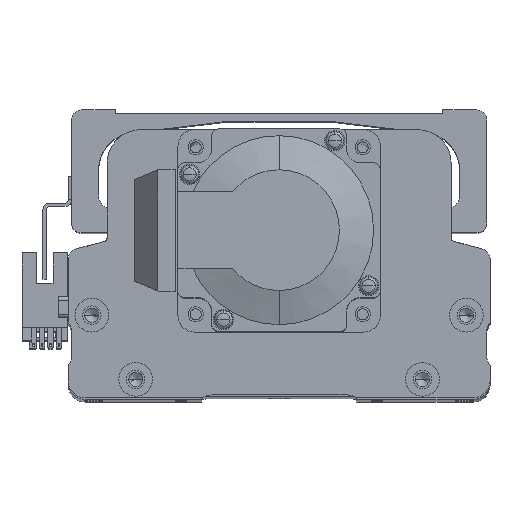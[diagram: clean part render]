
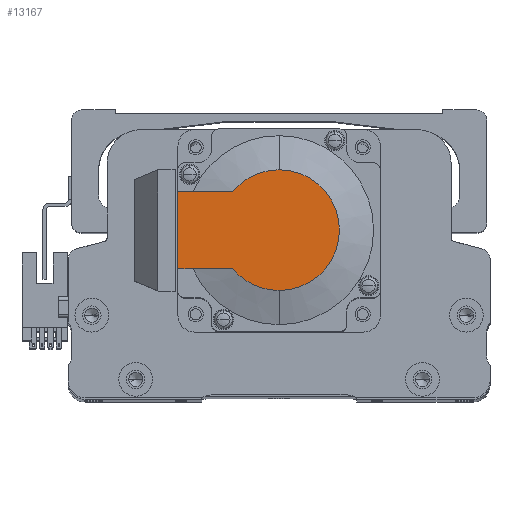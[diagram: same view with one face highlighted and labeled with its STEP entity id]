
A CAD part, top view. The second image highlights one B-rep face of the part: STEP entity #13167.
In plain terms, the highlighted planar face has unit normal (0, 0, 1) as drawn and (-1, 0, 0) by its records, which use the part's own axes.
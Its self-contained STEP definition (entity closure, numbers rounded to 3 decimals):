
#2856 = DIRECTION ( 'NONE',  ( 0., -1., 0. ) ) ;
#4699 = CARTESIAN_POINT ( 'NONE',  ( -118.5, 0., 0. ) ) ;
#5364 = EDGE_CURVE ( 'NONE', #16653, #48923, #42001, .T. ) ;
#5705 = VECTOR ( 'NONE', #2856, 1000. ) ;
#6154 = DIRECTION ( 'NONE',  ( -1., 0., 0. ) ) ;
#6888 = DIRECTION ( 'NONE',  ( 0., -1., 0. ) ) ;
#8611 = VERTEX_POINT ( 'NONE', #29557 ) ;
#8632 = DIRECTION ( 'NONE',  ( 0., 0., -1. ) ) ;
#9950 = PLANE ( 'NONE',  #48963 ) ;
#10588 = ORIENTED_EDGE ( 'NONE', *, *, #16560, .T. ) ;
#11199 = ORIENTED_EDGE ( 'NONE', *, *, #41778, .T. ) ;
#11314 = EDGE_LOOP ( 'NONE', ( #11199, #26597, #10588, #48470, #45414, #13993 ) ) ;
#12731 = DIRECTION ( 'NONE',  ( 0., 0., 1. ) ) ;
#12925 = DIRECTION ( 'NONE',  ( -1., 0., 0. ) ) ;
#12929 = CARTESIAN_POINT ( 'NONE',  ( -118.5, 30., -11.45 ) ) ;
#13167 = ADVANCED_FACE ( 'NONE', ( #34703 ), #9950, .T. ) ;
#13902 = AXIS2_PLACEMENT_3D ( 'NONE', #4699, #32261, #8632 ) ;
#13993 = ORIENTED_EDGE ( 'NONE', *, *, #5364, .F. ) ;
#14105 = CARTESIAN_POINT ( 'NONE',  ( -118.5, 0., 17.881 ) ) ;
#15989 = CIRCLE ( 'NONE', #13902, 17.881 ) ;
#16560 = EDGE_CURVE ( 'NONE', #48004, #42072, #15989, .T. ) ;
#16653 = VERTEX_POINT ( 'NONE', #12929 ) ;
#16716 = VERTEX_POINT ( 'NONE', #27283 ) ;
#17963 = DIRECTION ( 'NONE',  ( -1., 0., 0. ) ) ;
#18233 = CARTESIAN_POINT ( 'NONE',  ( -118.5, 30., 25. ) ) ;
#21083 = VECTOR ( 'NONE', #12731, 1000. ) ;
#21257 = VECTOR ( 'NONE', #6888, 1000. ) ;
#25216 = AXIS2_PLACEMENT_3D ( 'NONE', #36538, #12925, #40474 ) ;
#26461 = CARTESIAN_POINT ( 'NONE',  ( -118.5, 0., 11.45 ) ) ;
#26597 = ORIENTED_EDGE ( 'NONE', *, *, #46123, .T. ) ;
#27283 = CARTESIAN_POINT ( 'NONE',  ( -118.5, 13.735, -11.45 ) ) ;
#27310 = CARTESIAN_POINT ( 'NONE',  ( -118.5, 30., 11.45 ) ) ;
#28541 = CIRCLE ( 'NONE', #25216, 17.881 ) ;
#29557 = CARTESIAN_POINT ( 'NONE',  ( -118.5, 13.735, 11.45 ) ) ;
#29794 = CARTESIAN_POINT ( 'NONE',  ( -118.5, -8.941, 0. ) ) ;
#30531 = CARTESIAN_POINT ( 'NONE',  ( -118.5, -8.941, -11.45 ) ) ;
#32261 = DIRECTION ( 'NONE',  ( -1., 0., 0. ) ) ;
#32789 = EDGE_CURVE ( 'NONE', #42072, #8611, #28541, .T. ) ;
#33789 = DIRECTION ( 'NONE',  ( 0., 0., 1. ) ) ;
#34703 = FACE_OUTER_BOUND ( 'NONE', #11314, .T. ) ;
#36538 = CARTESIAN_POINT ( 'NONE',  ( -118.5, 0., 0. ) ) ;
#37165 = LINE ( 'NONE', #26461, #5705 ) ;
#38350 = AXIS2_PLACEMENT_3D ( 'NONE', #41497, #17963, #45429 ) ;
#38540 = CIRCLE ( 'NONE', #38350, 17.881 ) ;
#38939 = CARTESIAN_POINT ( 'NONE',  ( -118.5, 0., -17.881 ) ) ;
#40474 = DIRECTION ( 'NONE',  ( 0., 0., -1. ) ) ;
#41497 = CARTESIAN_POINT ( 'NONE',  ( -118.5, 0., 0. ) ) ;
#41778 = EDGE_CURVE ( 'NONE', #16653, #16716, #42178, .T. ) ;
#42001 = LINE ( 'NONE', #18233, #21083 ) ;
#42072 = VERTEX_POINT ( 'NONE', #14105 ) ;
#42178 = LINE ( 'NONE', #30531, #21257 ) ;
#42596 = EDGE_CURVE ( 'NONE', #48923, #8611, #37165, .T. ) ;
#45414 = ORIENTED_EDGE ( 'NONE', *, *, #42596, .F. ) ;
#45429 = DIRECTION ( 'NONE',  ( 0., 0., -1. ) ) ;
#46123 = EDGE_CURVE ( 'NONE', #16716, #48004, #38540, .T. ) ;
#48004 = VERTEX_POINT ( 'NONE', #38939 ) ;
#48470 = ORIENTED_EDGE ( 'NONE', *, *, #32789, .T. ) ;
#48923 = VERTEX_POINT ( 'NONE', #27310 ) ;
#48963 = AXIS2_PLACEMENT_3D ( 'NONE', #29794, #6154, #33789 ) ;
